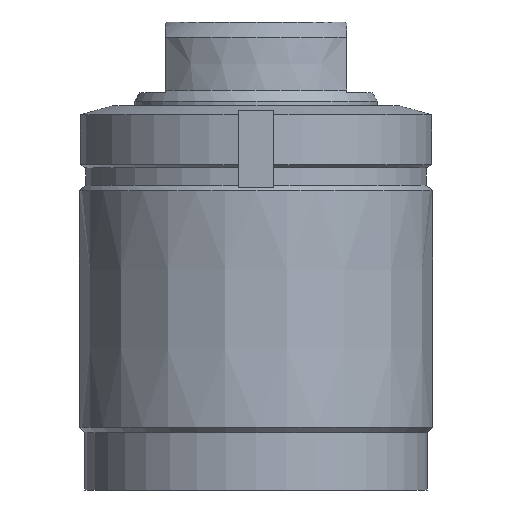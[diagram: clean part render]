
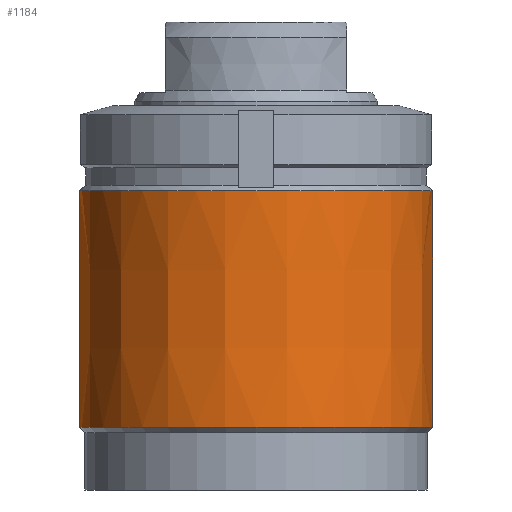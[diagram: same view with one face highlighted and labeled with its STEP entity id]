
A CAD part, front view. The second image highlights one B-rep face of the part: STEP entity #1184.
In plain terms, the highlighted conical face has half-angle 0 degrees and reference radius 40 mm.
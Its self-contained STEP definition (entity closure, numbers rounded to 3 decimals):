
#1121=CARTESIAN_POINT('',(-40.,0.0,-72.8));
#1122=VERTEX_POINT('',#1121);
#1130=CARTESIAN_POINT('',(40.,0.0,-72.8));
#1131=VERTEX_POINT('',#1130);
#1138=CARTESIAN_POINT('',(-0.0,0.0,-72.8));
#1139=DIRECTION('',(0.0,0.0,1.0));
#1140=DIRECTION('',(1.0,0.0,0.0));
#1141=AXIS2_PLACEMENT_3D('',#1138,#1139,#1140);
#1142=CIRCLE('',#1141,40.);
#1143=EDGE_CURVE('no 2485',#1122,#1131,#1142,.T.);
#1153=CARTESIAN_POINT('',(40.,0.0,-19.25));
#1154=VERTEX_POINT('',#1153);
#1155=CARTESIAN_POINT('',(40.,0.0,-19.25));
#1156=DIRECTION('',(0.,0.0,-1.0));
#1157=VECTOR('',#1156,1.0);
#1158=LINE('',#1155,#1157);
#1159=EDGE_CURVE('no 2495',#1154,#1131,#1158,.T.);
#1160=ORIENTED_EDGE('',*,*,#1159,.F.);
#1161=CARTESIAN_POINT('',(-40.,0.0,-19.25));
#1162=VERTEX_POINT('',#1161);
#1163=CARTESIAN_POINT('',(-0.0,0.0,-19.25));
#1164=DIRECTION('',(0.0,0.0,1.0));
#1165=DIRECTION('',(1.0,0.0,0.0));
#1166=AXIS2_PLACEMENT_3D('',#1163,#1164,#1165);
#1167=CIRCLE('',#1166,40.);
#1168=EDGE_CURVE('no 2501',#1162,#1154,#1167,.T.);
#1169=ORIENTED_EDGE('',*,*,#1168,.F.);
#1170=CARTESIAN_POINT('',(-40.,0.0,-19.25));
#1171=DIRECTION('',(0.,0.0,-1.0));
#1172=VECTOR('',#1171,1.0);
#1173=LINE('',#1170,#1172);
#1174=EDGE_CURVE('no 2505',#1162,#1122,#1173,.T.);
#1175=ORIENTED_EDGE('',*,*,#1174,.T.);
#1176=ORIENTED_EDGE('',*,*,#1143,.T.);
#1177=EDGE_LOOP('',(#1160,#1169,#1175,#1176));
#1178=FACE_OUTER_BOUND('',#1177,.T.);
#1179=CARTESIAN_POINT('',(-0.0,0.0,-19.25));
#1180=DIRECTION('',(0.0,0.0,-1.0));
#1181=DIRECTION('',(-0.0,1.0,0.0));
#1182=AXIS2_PLACEMENT_3D('',#1179,#1180,#1181);
#1183=CONICAL_SURFACE('',#1182,40.,0.);
#1184=ADVANCED_FACE('no 2488',(#1178),#1183,.T.);
